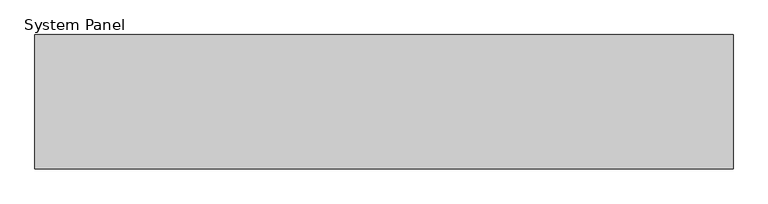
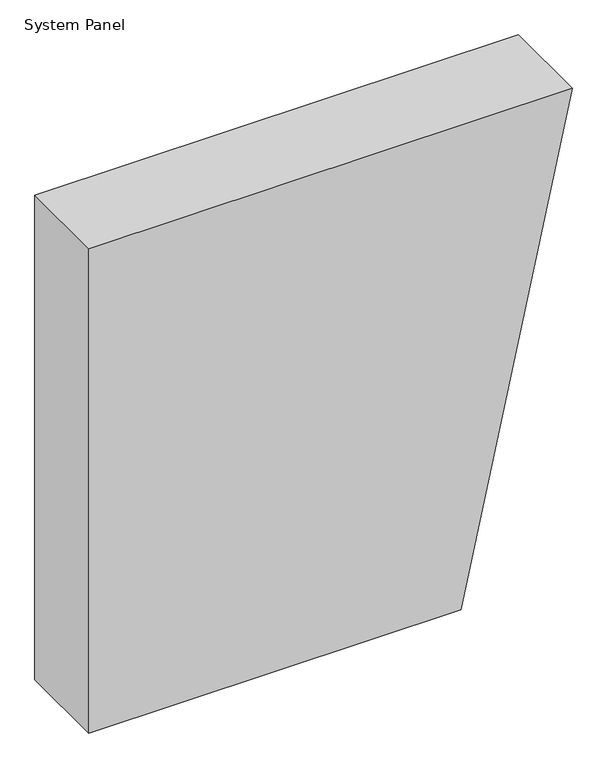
"""IFC4 building model written with IfcOpenShell, lengths in millimetres: plate geometry, System Panel : MetecnoPanel 200mm Horizontal - Plain Astro - PIR."""

from ifc_helpers import new_model, si_unit, frame, origin, place, context, project, spatial, polyline, outline, extrude, source, transform, mapped, element, save


def system_panel_bb879a09(model_context):
    return source(origin(), model_context, "Body", "SweptSolid", [
        extrude(outline(polyline([(0.0, -519.5661783), (0.0, 280.4338217), (1100.0, 519.5661783), (1100.0, -519.5661783), (0.0, -519.5661783)])), frame((0.0, -200.0, 0.0), z_axis=(0.0, 1.0, 0.0), x_axis=(0.0, 0.0, 1.0)), (0.0, 0.0, 1.0), 200.0),
    ])


if __name__ == "__main__":
    model = new_model("IFC4")
    model_context = context("Model", 3, world=origin())
    ifc_project = project(units=[si_unit("LENGTHUNIT", "METRE", prefix="MILLI")], contexts=[model_context])
    site = spatial("IfcSite", under=ifc_project)
    building = spatial("IfcBuilding", under=site)
    placement = place(None, origin())
    system_panel_shape = system_panel_bb879a09(model_context)
    element("IfcPlate", 1, ObjectType="System Panel : MetecnoPanel 200mm Horizontal - Plain Astro - PIR", at=placement, inside=building, context=model_context, shape_type="MappedRepresentation", body=[
        mapped(system_panel_shape, transform((0.0, 0.0, 0.0), x_axis=(1.0, 0.0, 0.0), y_axis=(0.0, 1.0, 0.0), z_axis=(0.0, 0.0, 1.0))),
    ])
    save(model, "model.ifc")
